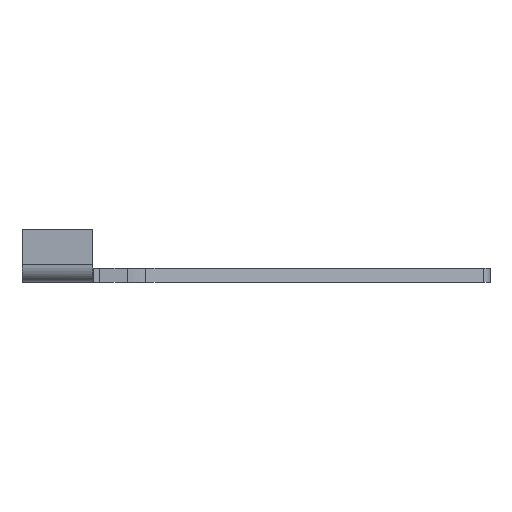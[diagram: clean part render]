
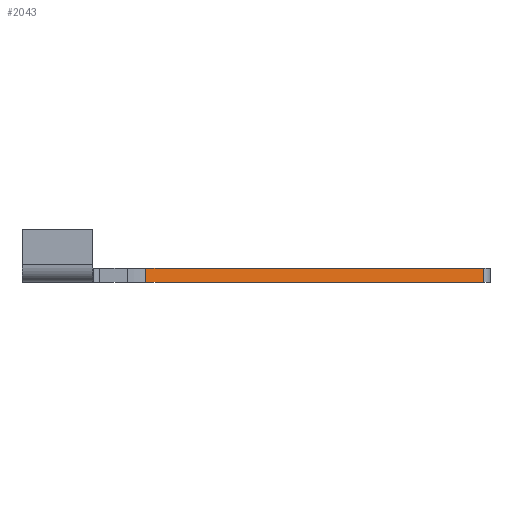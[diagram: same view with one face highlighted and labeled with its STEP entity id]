
A CAD part, left-side view. The second image highlights one B-rep face of the part: STEP entity #2043.
In plain terms, the highlighted planar face has unit normal (-0.964, -0.265, 0).
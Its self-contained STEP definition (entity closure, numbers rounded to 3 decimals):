
#24 = CARTESIAN_POINT ( 'NONE',  ( -49.284, 74.897, 4. ) ) ;
#180 = VECTOR ( 'NONE', #1788, 1000. ) ;
#249 = CARTESIAN_POINT ( 'NONE',  ( -23.005, -20.663, 15. ) ) ;
#377 = DIRECTION ( 'NONE',  ( -0.265, 0.964, 0. ) ) ;
#522 = VECTOR ( 'NONE', #1132, 1000. ) ;
#682 = LINE ( 'NONE', #2887, #3071 ) ;
#808 = CARTESIAN_POINT ( 'NONE',  ( -23.005, -20.663, 0. ) ) ;
#859 = FACE_OUTER_BOUND ( 'NONE', #2941, .T. ) ;
#899 = LINE ( 'NONE', #3440, #180 ) ;
#972 = EDGE_CURVE ( 'NONE', #2602, #2908, #2551, .T. ) ;
#980 = ORIENTED_EDGE ( 'NONE', *, *, #1079, .T. ) ;
#1079 = EDGE_CURVE ( 'NONE', #2602, #3417, #1452, .T. ) ;
#1132 = DIRECTION ( 'NONE',  ( 0., 0., -1. ) ) ;
#1164 = CARTESIAN_POINT ( 'NONE',  ( -45.469, 61.024, 4. ) ) ;
#1405 = CARTESIAN_POINT ( 'NONE',  ( -23.005, -20.663, 4. ) ) ;
#1447 = VERTEX_POINT ( 'NONE', #2206 ) ;
#1452 = LINE ( 'NONE', #1164, #1765 ) ;
#1765 = VECTOR ( 'NONE', #377, 1000. ) ;
#1788 = DIRECTION ( 'NONE',  ( 0., 0., -1. ) ) ;
#2043 = ADVANCED_FACE ( 'NONE', ( #859 ), #2069, .T. ) ;
#2069 = PLANE ( 'NONE',  #3309 ) ;
#2206 = CARTESIAN_POINT ( 'NONE',  ( -49.284, 74.897, 0. ) ) ;
#2362 = EDGE_CURVE ( 'NONE', #1447, #2908, #682, .T. ) ;
#2551 = LINE ( 'NONE', #249, #522 ) ;
#2602 = VERTEX_POINT ( 'NONE', #1405 ) ;
#2793 = ORIENTED_EDGE ( 'NONE', *, *, #2362, .T. ) ;
#2857 = ORIENTED_EDGE ( 'NONE', *, *, #3078, .T. ) ;
#2863 = DIRECTION ( 'NONE',  ( -0.265, 0.964, 0. ) ) ;
#2887 = CARTESIAN_POINT ( 'NONE',  ( -23.005, -20.663, 0. ) ) ;
#2908 = VERTEX_POINT ( 'NONE', #808 ) ;
#2941 = EDGE_LOOP ( 'NONE', ( #980, #2857, #2793, #3080 ) ) ;
#3071 = VECTOR ( 'NONE', #3449, 1000. ) ;
#3078 = EDGE_CURVE ( 'NONE', #3417, #1447, #899, .T. ) ;
#3080 = ORIENTED_EDGE ( 'NONE', *, *, #972, .F. ) ;
#3154 = CARTESIAN_POINT ( 'NONE',  ( -36.145, 27.117, 15. ) ) ;
#3192 = DIRECTION ( 'NONE',  ( -0.964, -0.265, 0. ) ) ;
#3309 = AXIS2_PLACEMENT_3D ( 'NONE', #3154, #3192, #2863 ) ;
#3417 = VERTEX_POINT ( 'NONE', #24 ) ;
#3440 = CARTESIAN_POINT ( 'NONE',  ( -49.284, 74.897, 15. ) ) ;
#3449 = DIRECTION ( 'NONE',  ( 0.265, -0.964, 0. ) ) ;
